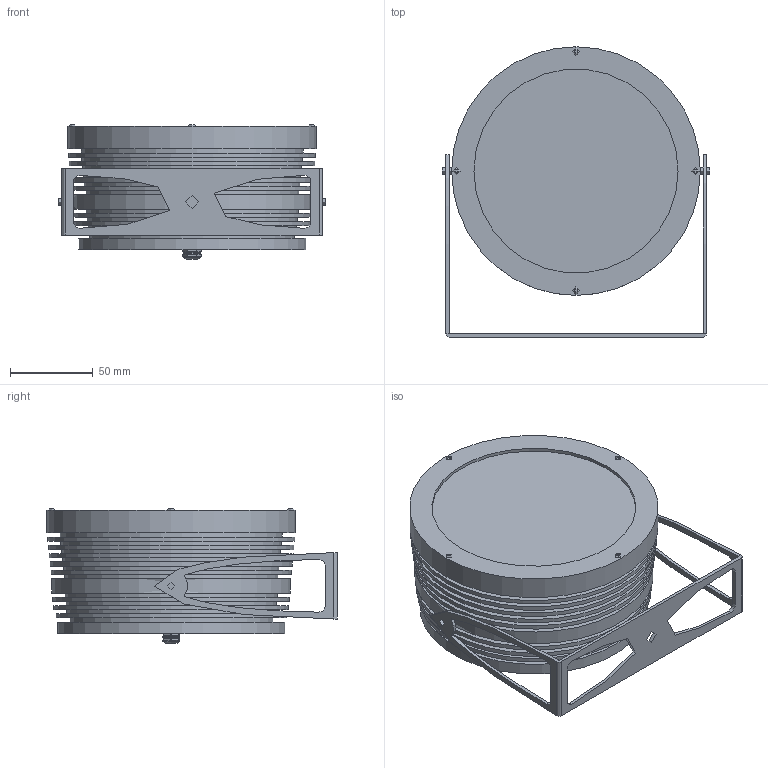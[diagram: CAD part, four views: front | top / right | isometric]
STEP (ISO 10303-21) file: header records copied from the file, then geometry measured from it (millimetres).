
FILE_DESCRIPTION(/* description */ (''),/* implementation_level */ '2;1');
FILE_NAME(/* name */ 'C:/Elena/ILM/02 3D/Crystal/Pubblico/Crystal Long Range.step',/* time_stamp */ '2020-05-27T12:56:03+02:00',/* author */ (''),/* organization */ (''),/* preprocessor_version */ 'ST-DEVELOPER v18.1',/* originating_system */ 'Autodesk Translation Framework v9.3.0.1241',/* authorisation */ '');
FILE_SCHEMA (('AUTOMOTIVE_DESIGN { 1 0 10303 214 3 1 1 }'));
Products named in the file (1): (Unsaved)
Bounding box: 161.2 x 174.9 x 81.07 mm (x, y, z)
Volume: 943968.9 mm3; surface area: 314777.8 mm2
Topology: 19 solids, 22 shells, 5278 faces, 13775 edges, 8506 vertices
Faces by surface type: plane 1663, bspline 1512, cylinder 1025, cone 478, torus 328, sphere 272
Full cylindrical faces by diameter (mm): 0.108 x4, 0.133 x4, 0.8 x4, 2.133 x4, 2.4 x4, 3 x4, 3.1 x4, 4 x8, 4.5 x2, 5 x1, 8 x1, 8.104 x4, 10 x9, 10.127 x1, 46.5 x4, 50 x4, 110 x1, 122.706 x1, 123 x3, 125 x1, 125.8 x1, 126.8 x1, 127.8 x1, 128.8 x1, 129.8 x1, 130.8 x1, 131.8 x1, 132 x1, 132.8 x1, 133.8 x1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
Entity records: 277553 total; most frequent: CARTESIAN_POINT 156148, ORIENTED_EDGE 27318, DIRECTION 23067, EDGE_CURVE 13659, AXIS2_PLACEMENT_3D 9457, VERTEX_POINT 8506, EDGE_LOOP 5575, FACE_OUTER_BOUND 5278
